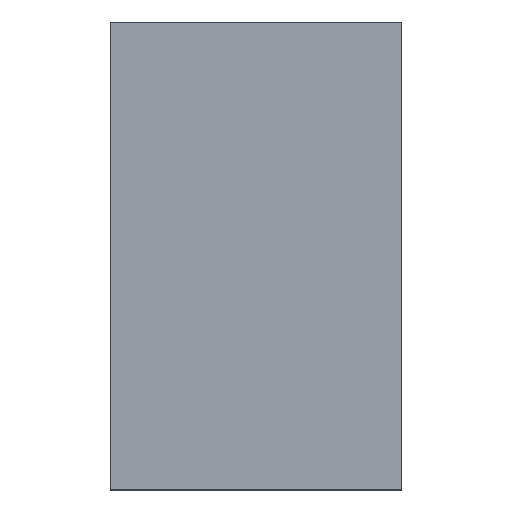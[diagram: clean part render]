
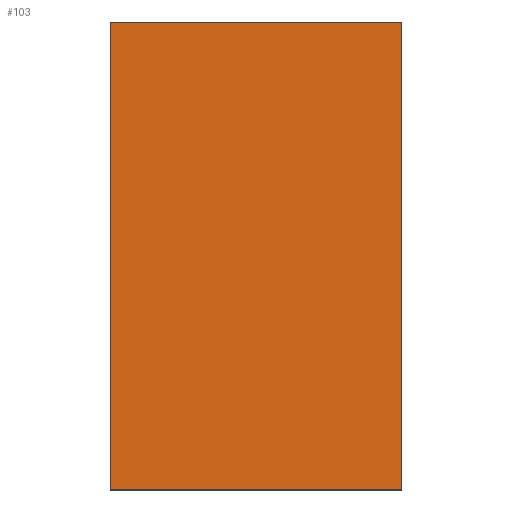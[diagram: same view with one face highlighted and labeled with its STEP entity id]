
A CAD part, top view. The second image highlights one B-rep face of the part: STEP entity #103.
In plain terms, the highlighted planar face has unit normal (0, 0, 1).
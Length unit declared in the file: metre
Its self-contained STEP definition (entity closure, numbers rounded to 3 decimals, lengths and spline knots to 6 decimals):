
#32=ORIENTED_EDGE('',*,*,#36,.F.);
#33=ORIENTED_EDGE('',*,*,#40,.T.);
#34=ORIENTED_EDGE('',*,*,#43,.T.);
#35=ORIENTED_EDGE('',*,*,#46,.F.);
#36=EDGE_CURVE('',#48,#49,#56,.T.);
#40=EDGE_CURVE('',#48,#52,#60,.T.);
#43=EDGE_CURVE('',#52,#54,#63,.T.);
#46=EDGE_CURVE('',#49,#54,#66,.T.);
#48=VERTEX_POINT('',#154);
#49=VERTEX_POINT('',#155);
#52=VERTEX_POINT('',#163);
#54=VERTEX_POINT('',#169);
#56=LINE('',#153,#68);
#60=LINE('',#162,#72);
#63=LINE('',#168,#75);
#66=LINE('',#174,#78);
#68=VECTOR('',#129,1.);
#72=VECTOR('',#135,1.);
#75=VECTOR('',#140,1.);
#78=VECTOR('',#145,1.);
#85=EDGE_LOOP('',(#32,#33,#34,#35));
#91=FACE_BOUND('',#85,.T.);
#97=PLANE('',#124);
#103=ADVANCED_FACE('',(#91),#97,.T.);
#124=AXIS2_PLACEMENT_3D('',#177,#149,#150);
#129=DIRECTION('',(-1.,0.,0.));
#135=DIRECTION('',(0.,1.,0.));
#140=DIRECTION('',(-1.,0.,0.));
#145=DIRECTION('',(0.,1.,0.));
#149=DIRECTION('',(0.,0.,1.));
#150=DIRECTION('',(1.,0.,0.));
#153=CARTESIAN_POINT('',(0.07492,-0.07736,0.0045));
#154=CARTESIAN_POINT('',(0.10907,-0.07736,0.0045));
#155=CARTESIAN_POINT('',(0.04077,-0.07736,0.0045));
#162=CARTESIAN_POINT('',(0.10907,-0.00531,0.0045));
#163=CARTESIAN_POINT('',(0.10907,0.03214,0.0045));
#168=CARTESIAN_POINT('',(0.05677,0.03214,0.0045));
#169=CARTESIAN_POINT('',(0.04077,0.03214,0.0045));
#174=CARTESIAN_POINT('',(0.04077,0.029215,0.0045));
#177=CARTESIAN_POINT('',(0.02832,-0.02261,0.0045));
